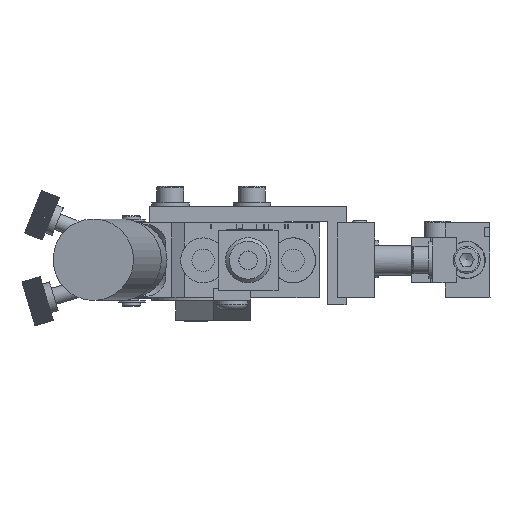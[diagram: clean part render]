
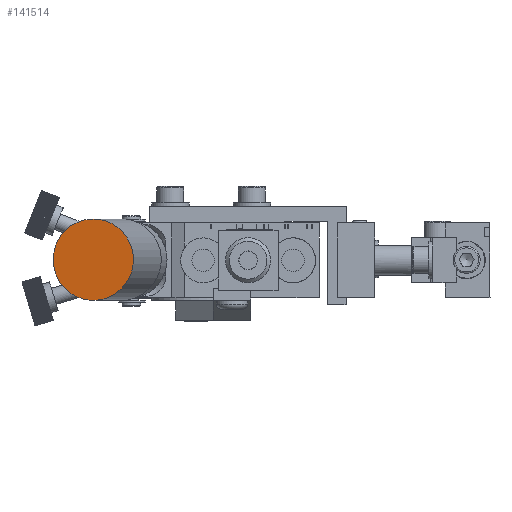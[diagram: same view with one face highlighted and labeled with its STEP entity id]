
A CAD part, front view. The second image highlights one B-rep face of the part: STEP entity #141514.
In plain terms, the highlighted planar face has unit normal (-0.174, -0.985, 0) by its records, which use the part's own axes.
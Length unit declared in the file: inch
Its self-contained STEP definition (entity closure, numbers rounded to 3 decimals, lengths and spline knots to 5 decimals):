
#141498=CARTESIAN_POINT('',(-0.8449,-6.73627,-0.23053));
#141499=DIRECTION('',(-0.174,-0.985,0.));
#141500=DIRECTION('',(0.272,-0.048,0.961));
#141501=AXIS2_PLACEMENT_3D('',#141498,#141499,#141500);
#141502=PLANE('',#141501);
#141503=CARTESIAN_POINT('',(-0.93754,-6.71993,-0.55726));
#141504=VERTEX_POINT('',#141503);
#141505=CARTESIAN_POINT('',(-0.8449,-6.73627,-0.23053));
#141506=DIRECTION('',(-0.174,-0.985,0.));
#141507=DIRECTION('',(0.272,-0.048,0.961));
#141508=AXIS2_PLACEMENT_3D('',#141505,#141506,#141507);
#141509=CIRCLE('',#141508,0.34);
#141510=EDGE_CURVE('',#141504,#141504,#141509,.T.);
#141511=ORIENTED_EDGE('',*,*,#141510,.T.);
#141512=EDGE_LOOP('',(#141511));
#141513=FACE_OUTER_BOUND('',#141512,.T.);
#141514=ADVANCED_FACE('',(#141513),#141502,.T.);
